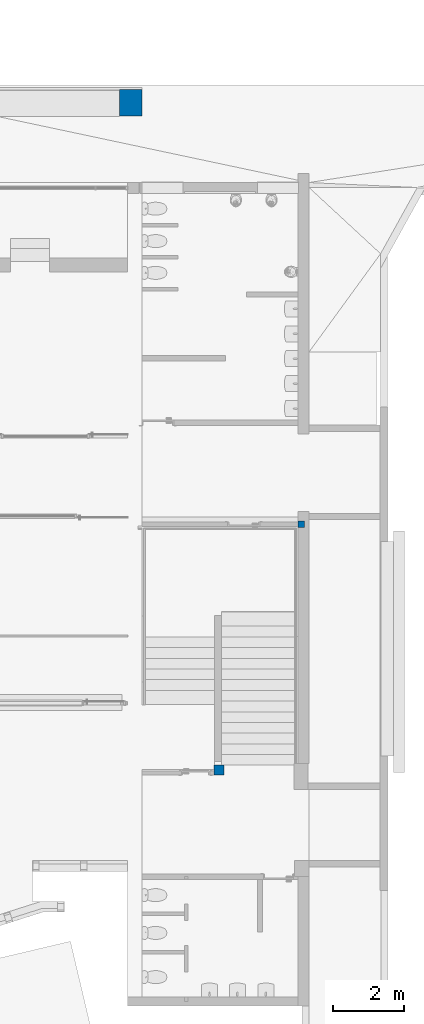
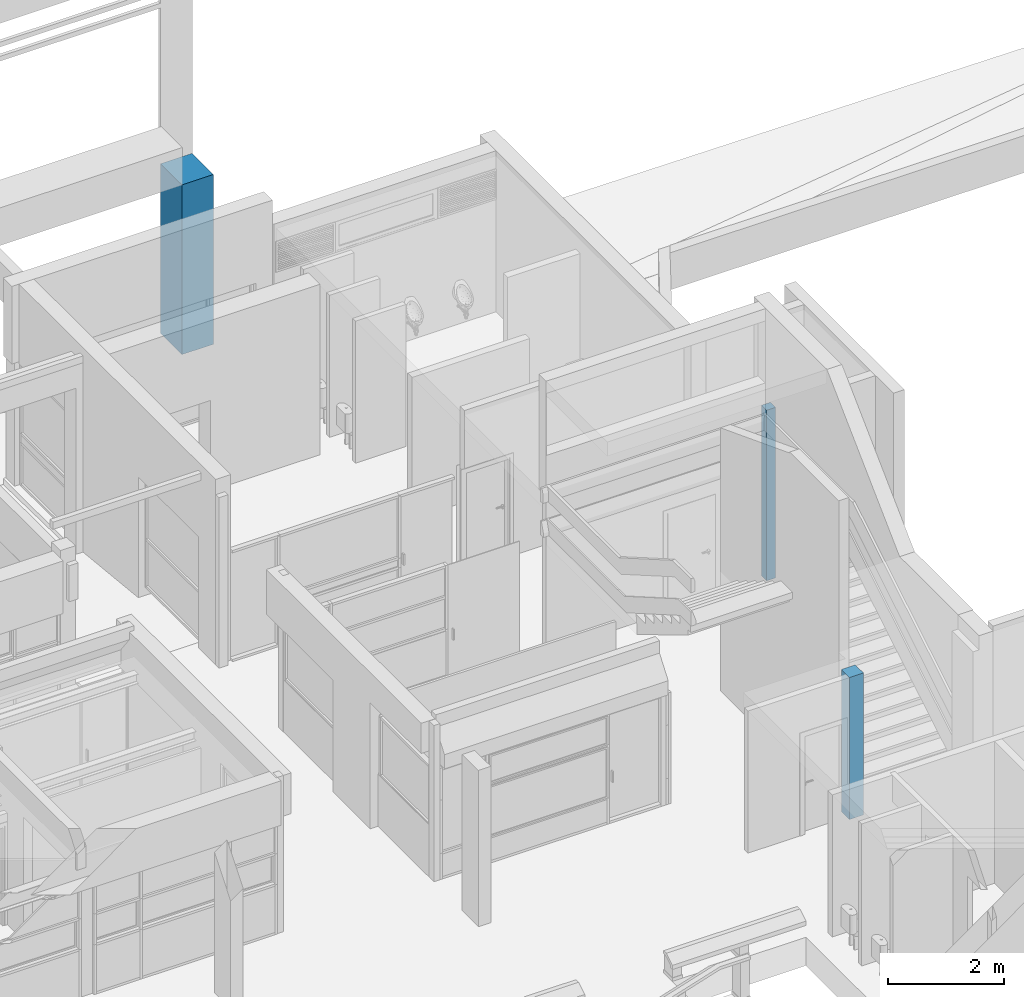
# One storey, part 2 of 117: 3 columns.
"""IFC4 building model written with IfcOpenShell, lengths in metres."""

from ifc_helpers import new_model, entity, si_unit, converted_unit, derived_unit, direction, frame, origin, place, context, subcontext, project, spatial, indexed_curve, outline, extrude, source, transform, mapped, material, type_object, type_shapes, element, save


model = new_model("IFC4")

# Units and contexts
model_context = context("Model", 3, precision=1e-05, world=origin(), true_north=direction((6.123031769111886e-17, 1.0)))
body_context = subcontext(model_context, "Body", "Model", "MODEL_VIEW")
ifc_project = project(units=[si_unit("LENGTHUNIT", "METRE"), si_unit("AREAUNIT", "SQUARE_METRE"), si_unit("VOLUMEUNIT", "CUBIC_METRE"), converted_unit("PLANEANGLEUNIT", "DEGREE", entity("IfcRatioMeasure", 0.017453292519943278), si_unit("PLANEANGLEUNIT", "RADIAN"), dimensions=[0, 0, 0, 0, 0, 0, 0]), si_unit("MASSUNIT", "GRAM", prefix="KILO"), derived_unit("MASSDENSITYUNIT", [(si_unit("MASSUNIT", "GRAM", prefix="KILO"), 1), (si_unit("LENGTHUNIT", "METRE"), -3)]), derived_unit("MOMENTOFINERTIAUNIT", [(si_unit("LENGTHUNIT", "METRE"), 4)]), si_unit("TIMEUNIT", "SECOND"), si_unit("FREQUENCYUNIT", "HERTZ"), si_unit("THERMODYNAMICTEMPERATUREUNIT", "DEGREE_CELSIUS"), derived_unit("THERMALTRANSMITTANCEUNIT", [(si_unit("MASSUNIT", "GRAM", prefix="KILO"), 1), (si_unit("THERMODYNAMICTEMPERATUREUNIT", "KELVIN"), -1), (si_unit("TIMEUNIT", "SECOND"), -3)]), derived_unit("VOLUMETRICFLOWRATEUNIT", [(si_unit("LENGTHUNIT", "METRE"), 3), (si_unit("TIMEUNIT", "SECOND"), -1)]), derived_unit("MASSFLOWRATEUNIT", [(si_unit("MASSUNIT", "GRAM", prefix="KILO"), 1), (si_unit("TIMEUNIT", "SECOND"), -1)]), derived_unit("ROTATIONALFREQUENCYUNIT", [(si_unit("TIMEUNIT", "SECOND"), -1)]), si_unit("ELECTRICCURRENTUNIT", "AMPERE"), si_unit("ELECTRICVOLTAGEUNIT", "VOLT"), si_unit("POWERUNIT", "WATT"), si_unit("FORCEUNIT", "NEWTON", prefix="KILO"), si_unit("ILLUMINANCEUNIT", "LUX"), si_unit("LUMINOUSFLUXUNIT", "LUMEN"), si_unit("LUMINOUSINTENSITYUNIT", "CANDELA"), derived_unit("USERDEFINED", [(si_unit("MASSUNIT", "GRAM", prefix="KILO"), -1), (si_unit("LENGTHUNIT", "METRE"), -2), (si_unit("TIMEUNIT", "SECOND"), 3), (si_unit("LUMINOUSFLUXUNIT", "LUMEN"), 1)]), derived_unit("SOUNDPOWERUNIT", [(si_unit("MASSUNIT", "GRAM", prefix="KILO"), 1), (si_unit("LENGTHUNIT", "METRE"), 2), (si_unit("TIMEUNIT", "SECOND"), -3)]), derived_unit("SOUNDPRESSUREUNIT", [(si_unit("MASSUNIT", "GRAM", prefix="KILO"), 1), (si_unit("LENGTHUNIT", "METRE"), -1), (si_unit("TIMEUNIT", "SECOND"), -2)]), derived_unit("LINEARVELOCITYUNIT", [(si_unit("LENGTHUNIT", "METRE"), 1), (si_unit("TIMEUNIT", "SECOND"), -1)]), si_unit("PRESSUREUNIT", "PASCAL"), derived_unit("USERDEFINED", [(si_unit("LENGTHUNIT", "METRE"), -2), (si_unit("MASSUNIT", "GRAM", prefix="KILO"), 1), (si_unit("TIMEUNIT", "SECOND"), -2)]), derived_unit("LINEARFORCEUNIT", [(si_unit("MASSUNIT", "GRAM", prefix="KILO"), 1), (si_unit("LENGTHUNIT", "METRE"), 1), (si_unit("TIMEUNIT", "SECOND"), -2), (si_unit("LENGTHUNIT", "METRE"), -1)]), derived_unit("PLANARFORCEUNIT", [(si_unit("MASSUNIT", "GRAM", prefix="KILO"), 1), (si_unit("LENGTHUNIT", "METRE"), 1), (si_unit("TIMEUNIT", "SECOND"), -2), (si_unit("LENGTHUNIT", "METRE"), -2)])], contexts=[model_context])

# Site, building, storey
site_placement = place(None, origin())
site = spatial("IfcSite", under=ifc_project, at=site_placement, Name="Superficie", CompositionType="ELEMENT")
building_placement = place(site_placement, origin())
building = spatial("IfcBuilding", under=site, at=building_placement, CompositionType="ELEMENT")
storey_placement = place(building_placement, origin())
storey = spatial("IfcBuildingStorey", under=building, at=storey_placement, Name="Nivel 0", CompositionType="ELEMENT", Elevation=0.0)

# Columns
ifc_material = material(Name="<Unnamed>")
column_type_1 = type_object("IfcColumnType", Name="Pilar rectangular hormigón:280 x 280 mm 2", PredefinedType="COLUMN", material=ifc_material)
shared_shape_1 = source(origin(), body_context, "Body", "SweptSolid", [
    extrude(outline(indexed_curve([(-0.13999999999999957, -0.14000000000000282), (0.14000000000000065, -0.1399999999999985), (0.14000000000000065, 0.1399999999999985), (-0.13999999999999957, 0.1399999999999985), (-0.13999999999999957, -0.14000000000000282)], self_intersect=False)), frame((23.154576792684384, -3.6041708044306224, 0.0), z_axis=(0.0, 0.0, 1.0), x_axis=(0.0, -1.0, 0.0)), (0.0, 0.0, 1.0), 2.9999999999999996),
])
type_shapes(column_type_1, [shared_shape_1])
column_1_placement = place(storey_placement, origin())
element("IfcColumn", 1, at=column_1_placement, inside=storey, type_object=column_type_1, material=ifc_material, Name="Pilar rectangular hormigón:280 x 280 mm 2", ObjectType="Pilar rectangular hormigón:280 x 280 mm 2", PredefinedType="COLUMN", context=body_context, shape_type="MappedRepresentation", body=[
    mapped(shared_shape_1, transform((0.0, 0.0, 0.0), scale=1.0)),
])
column_type_2 = type_object("IfcColumnType", Name="Pilar rectangular hormigón:180 x 180 mm 3", PredefinedType="COLUMN", material=ifc_material)
shared_shape_2 = source(origin(), body_context, "Body", "SweptSolid", [
    extrude(outline(indexed_curve([(-0.09, -0.09), (0.09, -0.09), (0.09, 0.09), (-0.09, 0.09), (-0.09, -0.09)], self_intersect=False)), frame((0.0, 0.0, 0.0), z_axis=(0.0, 0.0, 1.0), x_axis=(0.0, -1.0, 0.0)), (0.0, 0.0, 1.0), 3.5999999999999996),
])
type_shapes(column_type_2, [shared_shape_2])
column_2_placement = place(storey_placement, frame((25.466799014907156, 3.3008291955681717, 0.0)))
element("IfcColumn", 2, at=column_2_placement, inside=storey, type_object=column_type_2, material=ifc_material, Name="Pilar rectangular hormigón:180 x 180 mm 3", ObjectType="Pilar rectangular hormigón:180 x 180 mm 3", PredefinedType="COLUMN", context=body_context, shape_type="MappedRepresentation", body=[
    mapped(shared_shape_2, transform((0.0, 0.0, 0.0), scale=1.0)),
])
column_type_3 = type_object("IfcColumnType", Name="Pilar rectangular hormigón:630 x 740 mm 4", PredefinedType="COLUMN", material=ifc_material)
shared_shape_3 = source(origin(), body_context, "Body", "SweptSolid", [
    extrude(outline(indexed_curve([(-0.3700000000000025, -0.315000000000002), (0.36999999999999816, -0.315000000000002), (0.36999999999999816, 0.31499999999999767), (-0.3700000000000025, 0.31499999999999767), (-0.3700000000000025, -0.315000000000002)], self_intersect=False)), frame((20.671799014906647, 15.125829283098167, -0.46578594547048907), z_axis=(0.0, 0.0, 1.0), x_axis=(0.0, -1.0, 0.0)), (0.0, 0.0, 1.0), 3.585785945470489),
])
type_shapes(column_type_3, [shared_shape_3])
column_3_placement = place(storey_placement, origin())
element("IfcColumn", 3, at=column_3_placement, inside=storey, type_object=column_type_3, material=ifc_material, Name="Pilar rectangular hormigón:630 x 740 mm 4", ObjectType="Pilar rectangular hormigón:630 x 740 mm 4", PredefinedType="COLUMN", context=body_context, shape_type="MappedRepresentation", body=[
    mapped(shared_shape_3, transform((0.0, 0.0, 0.0), scale=1.0)),
])

save(model, "model.ifc")
